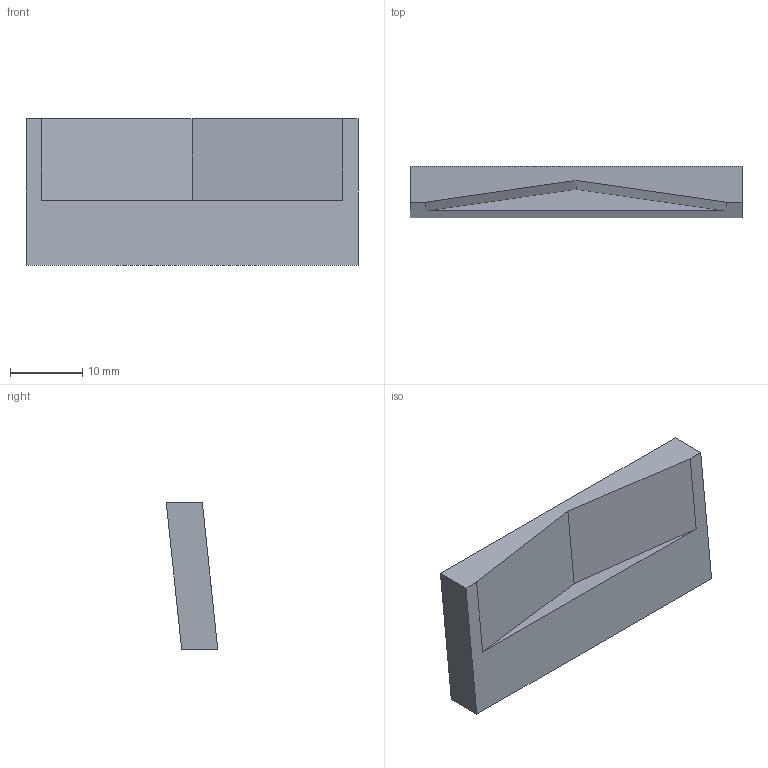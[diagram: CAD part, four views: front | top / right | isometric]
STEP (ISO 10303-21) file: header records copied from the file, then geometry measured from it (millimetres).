
FILE_DESCRIPTION(('Open CASCADE Model'),'2;1');
FILE_NAME('Open CASCADE Shape Model','2026-10-16T03:24:50',('Author'),( 'Open CASCADE'),'Open CASCADE STEP processor 7.9','Open CASCADE 7.9' ,'Unknown');
FILE_SCHEMA(('AUTOMOTIVE_DESIGN { 1 0 10303 214 1 1 1 1 }'));
Length unit declared in the file: millimetre
Products named in the file (1): Open CASCADE STEP translator 7.9 29
Bounding box: 46 x 7.14 x 20.33 mm (x, y, z)
Volume: 3956.7 mm3; surface area: 2555.5 mm2
Topology: 1 solids, 1 shells, 9 faces, 21 edges, 14 vertices
Faces by surface type: plane 9
Entity records: 538 total; most frequent: CARTESIAN_POINT 87, DIRECTION 83, LINE 63, VECTOR 63, ORIENTED_EDGE 42, PCURVE 42, DEFINITIONAL_REPRESENTATION 42, EDGE_CURVE 21
